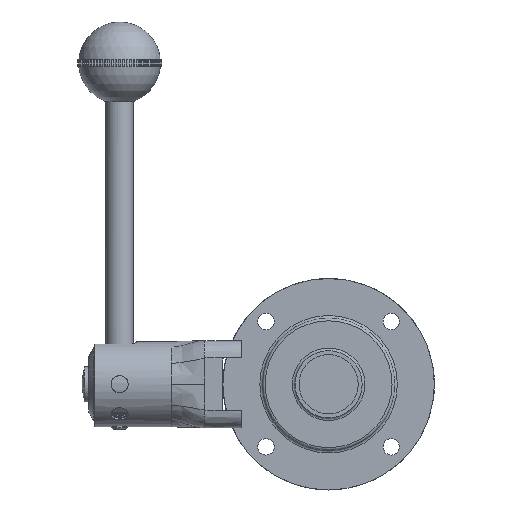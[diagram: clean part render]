
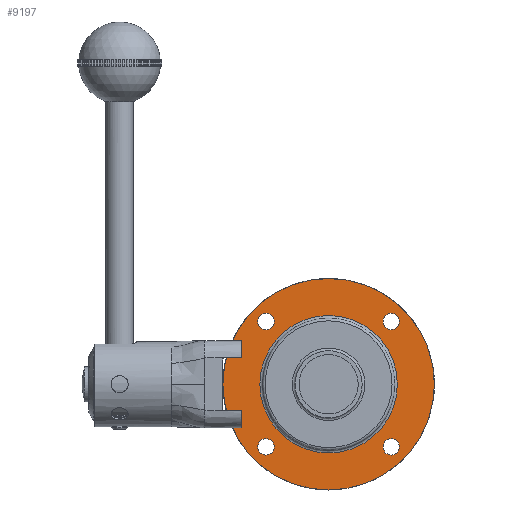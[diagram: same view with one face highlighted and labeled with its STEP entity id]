
A CAD part, left-side view. The second image highlights one B-rep face of the part: STEP entity #9197.
In plain terms, the highlighted planar face has unit normal (-1, 0, 0) as drawn and (1, 0, 0) by its records, which use the part's own axes.
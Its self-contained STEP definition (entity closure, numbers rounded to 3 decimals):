
#1452=FACE_BOUND('',#2595,.T.);
#1453=FACE_BOUND('',#2596,.T.);
#1454=FACE_BOUND('',#2597,.T.);
#1455=FACE_BOUND('',#2598,.T.);
#1456=FACE_BOUND('',#2599,.T.);
#1975=FACE_OUTER_BOUND('',#2594,.T.);
#2594=EDGE_LOOP('',(#7891));
#2595=EDGE_LOOP('',(#7892));
#2596=EDGE_LOOP('',(#7893));
#2597=EDGE_LOOP('',(#7894));
#2598=EDGE_LOOP('',(#7895));
#2599=EDGE_LOOP('',(#7896));
#3161=CIRCLE('',#10322,40.);
#3170=CIRCLE('',#10334,3.1);
#3171=CIRCLE('',#10336,3.1);
#3172=CIRCLE('',#10338,3.1);
#3173=CIRCLE('',#10340,3.1);
#3176=CIRCLE('',#10347,26.);
#4018=VERTEX_POINT('',#26511);
#4031=VERTEX_POINT('',#26561);
#4032=VERTEX_POINT('',#26565);
#4033=VERTEX_POINT('',#26569);
#4034=VERTEX_POINT('',#26573);
#4035=VERTEX_POINT('',#26582);
#5298=EDGE_CURVE('',#4018,#4018,#3161,.T.);
#5315=EDGE_CURVE('',#4031,#4031,#3170,.T.);
#5317=EDGE_CURVE('',#4032,#4032,#3171,.T.);
#5319=EDGE_CURVE('',#4033,#4033,#3172,.T.);
#5321=EDGE_CURVE('',#4034,#4034,#3173,.T.);
#5324=EDGE_CURVE('',#4035,#4035,#3176,.T.);
#7891=ORIENTED_EDGE('',*,*,#5298,.T.);
#7892=ORIENTED_EDGE('',*,*,#5315,.T.);
#7893=ORIENTED_EDGE('',*,*,#5317,.T.);
#7894=ORIENTED_EDGE('',*,*,#5319,.T.);
#7895=ORIENTED_EDGE('',*,*,#5321,.T.);
#7896=ORIENTED_EDGE('',*,*,#5324,.F.);
#8278=PLANE('',#10346);
#9197=ADVANCED_FACE('',(#1975,#1452,#1453,#1454,#1455,#1456),#8278,.T.);
#10322=AXIS2_PLACEMENT_3D('',#26512,#12837,#12838);
#10334=AXIS2_PLACEMENT_3D('',#26563,#12867,#12868);
#10336=AXIS2_PLACEMENT_3D('',#26567,#12872,#12873);
#10338=AXIS2_PLACEMENT_3D('',#26571,#12877,#12878);
#10340=AXIS2_PLACEMENT_3D('',#26575,#12882,#12883);
#10346=AXIS2_PLACEMENT_3D('',#26581,#12894,#12895);
#10347=AXIS2_PLACEMENT_3D('',#26583,#12896,#12897);
#12837=DIRECTION('center_axis',(1.,0.,0.));
#12838=DIRECTION('ref_axis',(0.,0.,-1.));
#12867=DIRECTION('center_axis',(-1.,0.,0.));
#12868=DIRECTION('ref_axis',(0.,1.,0.));
#12872=DIRECTION('center_axis',(-1.,0.,0.));
#12873=DIRECTION('ref_axis',(0.,0.,-1.));
#12877=DIRECTION('center_axis',(-1.,0.,0.));
#12878=DIRECTION('ref_axis',(0.,-1.,0.));
#12882=DIRECTION('center_axis',(-1.,0.,0.));
#12883=DIRECTION('ref_axis',(0.,0.,1.));
#12894=DIRECTION('center_axis',(1.,0.,0.));
#12895=DIRECTION('ref_axis',(0.,0.,-1.));
#12896=DIRECTION('center_axis',(1.,0.,0.));
#12897=DIRECTION('ref_axis',(0.,0.,-1.));
#26511=CARTESIAN_POINT('',(10.,-40.,0.));
#26512=CARTESIAN_POINT('Origin',(10.,0.,0.));
#26561=CARTESIAN_POINT('',(10.,20.588,-23.688));
#26563=CARTESIAN_POINT('Origin',(10.,23.688,-23.688));
#26565=CARTESIAN_POINT('',(10.,-23.688,-20.588));
#26567=CARTESIAN_POINT('Origin',(10.,-23.688,-23.688));
#26569=CARTESIAN_POINT('',(10.,-20.588,23.688));
#26571=CARTESIAN_POINT('Origin',(10.,-23.688,23.688));
#26573=CARTESIAN_POINT('',(10.,23.688,20.588));
#26575=CARTESIAN_POINT('Origin',(10.,23.688,23.688));
#26581=CARTESIAN_POINT('Origin',(10.,26.,0.));
#26582=CARTESIAN_POINT('',(10.,0.,26.));
#26583=CARTESIAN_POINT('Origin',(10.,0.,0.));
